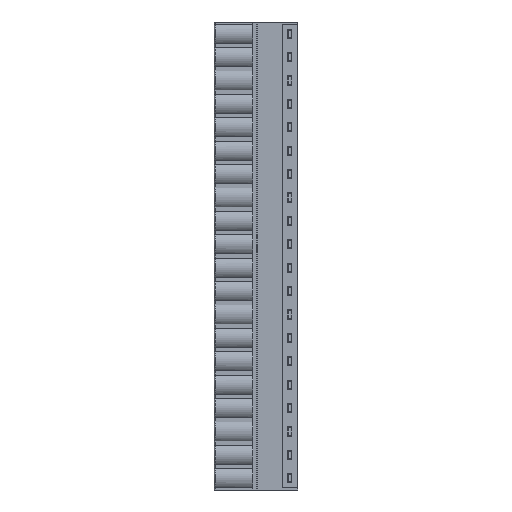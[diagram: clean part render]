
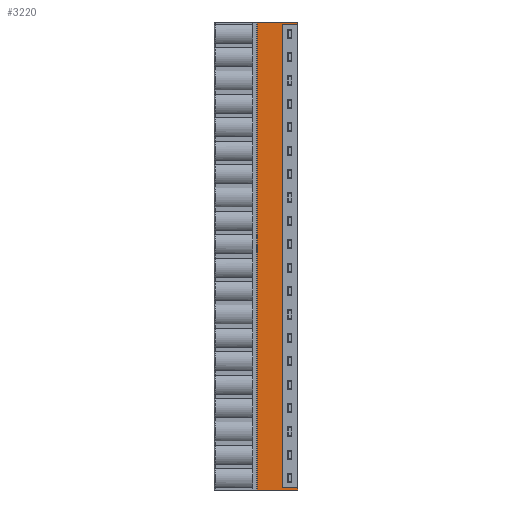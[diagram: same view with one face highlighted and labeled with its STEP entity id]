
A CAD part, left-side view. The second image highlights one B-rep face of the part: STEP entity #3220.
In plain terms, the highlighted planar face has unit normal (-1, 0, 0).
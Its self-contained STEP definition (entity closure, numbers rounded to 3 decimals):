
#1388 = CARTESIAN_POINT ( 'NONE',  ( -3.9, 3.033, 101.109 ) ) ;
#1598 = PLANE ( 'NONE',  #20073 ) ;
#1789 = CARTESIAN_POINT ( 'NONE',  ( -3.9, 2.9, 101.11 ) ) ;
#3220 = ADVANCED_FACE ( 'NONE', ( #69339 ), #1598, .T. ) ;
#3453 = CARTESIAN_POINT ( 'NONE',  ( -3.9, 1.933, 0.49 ) ) ;
#5058 = CARTESIAN_POINT ( 'NONE',  ( -3.9, 8.8, 101.6 ) ) ;
#5821 = CARTESIAN_POINT ( 'NONE',  ( -3.9, 0., 101.11 ) ) ;
#7580 = CARTESIAN_POINT ( 'NONE',  ( -3.9, 2.9, 0.49 ) ) ;
#7856 = ORIENTED_EDGE ( 'NONE', *, *, #55674, .T. ) ;
#8158 = CARTESIAN_POINT ( 'NONE',  ( -3.9, 8.9, 0. ) ) ;
#10050 = CARTESIAN_POINT ( 'NONE',  ( -3.9, 0., 101.6 ) ) ;
#13139 = VERTEX_POINT ( 'NONE', #23324 ) ;
#13706 = CARTESIAN_POINT ( 'NONE',  ( -3.9, 3.167, 101.108 ) ) ;
#13726 = CARTESIAN_POINT ( 'NONE',  ( -3.9, 2.9, 101.11 ) ) ;
#14827 = CARTESIAN_POINT ( 'NONE',  ( -3.9, 2.9, 0.49 ) ) ;
#14875 = LINE ( 'NONE', #75610, #24161 ) ;
#20057 = EDGE_CURVE ( 'NONE', #52221, #35600, #46239, .T. ) ;
#20073 = AXIS2_PLACEMENT_3D ( 'NONE', #8158, #33206, #38152 ) ;
#20598 = CARTESIAN_POINT ( 'NONE',  ( -3.9, 3.033, 0.491 ) ) ;
#21648 = B_SPLINE_CURVE_WITH_KNOTS ( 'NONE', 3,
 ( #31669, #24705, #68204, #5821 ),
 .UNSPECIFIED., .F., .F.,
 ( 4, 4 ),
 ( 0., 1. ),
 .UNSPECIFIED. ) ;
#23324 = CARTESIAN_POINT ( 'NONE',  ( -3.9, 8.8, 101.6 ) ) ;
#24161 = VECTOR ( 'NONE', #32564, 1000. ) ;
#24264 = B_SPLINE_CURVE_WITH_KNOTS ( 'NONE', 3,
 ( #53517, #3453, #71575, #28903 ),
 .UNSPECIFIED., .F., .F.,
 ( 4, 4 ),
 ( 0., 1. ),
 .UNSPECIFIED. ) ;
#24443 = B_SPLINE_CURVE_WITH_KNOTS ( 'NONE', 3,
 ( #57529, #27547, #20598, #14827 ),
 .UNSPECIFIED., .F., .F.,
 ( 4, 4 ),
 ( 0., 1. ),
 .UNSPECIFIED. ) ;
#24705 = CARTESIAN_POINT ( 'NONE',  ( -3.9, 1.933, 101.11 ) ) ;
#25339 = ORIENTED_EDGE ( 'NONE', *, *, #72840, .T. ) ;
#26111 = VERTEX_POINT ( 'NONE', #56453 ) ;
#26465 = ORIENTED_EDGE ( 'NONE', *, *, #38531, .F. ) ;
#27547 = CARTESIAN_POINT ( 'NONE',  ( -3.9, 3.167, 0.492 ) ) ;
#28903 = CARTESIAN_POINT ( 'NONE',  ( -3.9, 0., 0.49 ) ) ;
#29697 = LINE ( 'NONE', #5058, #38107 ) ;
#29887 = VECTOR ( 'NONE', #45440, 1000. ) ;
#31279 = EDGE_CURVE ( 'NONE', #62491, #26111, #24264, .T. ) ;
#31369 = CARTESIAN_POINT ( 'NONE',  ( -3.9, 8.8, 0. ) ) ;
#31669 = CARTESIAN_POINT ( 'NONE',  ( -3.9, 2.9, 101.11 ) ) ;
#32564 = DIRECTION ( 'NONE',  ( 0., 0., -1. ) ) ;
#32908 = DIRECTION ( 'NONE',  ( 0., -1., 0. ) ) ;
#33206 = DIRECTION ( 'NONE',  ( -1., 0., 0. ) ) ;
#35559 = VERTEX_POINT ( 'NONE', #31369 ) ;
#35600 = VERTEX_POINT ( 'NONE', #58007 ) ;
#36755 = EDGE_CURVE ( 'NONE', #52221, #61240, #48146, .T. ) ;
#36866 = LINE ( 'NONE', #42617, #68948 ) ;
#36897 = CARTESIAN_POINT ( 'NONE',  ( -3.9, 3.3, 101.108 ) ) ;
#38107 = VECTOR ( 'NONE', #66644, 1000. ) ;
#38152 = DIRECTION ( 'NONE',  ( 0., 0., 1. ) ) ;
#38389 = EDGE_CURVE ( 'NONE', #35600, #62491, #24443, .T. ) ;
#38531 = EDGE_CURVE ( 'NONE', #26111, #44320, #36866, .T. ) ;
#42617 = CARTESIAN_POINT ( 'NONE',  ( -3.9, 0., 0.49 ) ) ;
#44320 = VERTEX_POINT ( 'NONE', #52653 ) ;
#45353 = ORIENTED_EDGE ( 'NONE', *, *, #68590, .F. ) ;
#45440 = DIRECTION ( 'NONE',  ( 0., 0., -1. ) ) ;
#45691 = CARTESIAN_POINT ( 'NONE',  ( -3.9, 3.3, 101.108 ) ) ;
#46239 = LINE ( 'NONE', #63528, #29887 ) ;
#47806 = LINE ( 'NONE', #10050, #69627 ) ;
#48146 = B_SPLINE_CURVE_WITH_KNOTS ( 'NONE', 3,
 ( #45691, #13706, #1388, #1789 ),
 .UNSPECIFIED., .F., .F.,
 ( 4, 4 ),
 ( 0., 1. ),
 .UNSPECIFIED. ) ;
#50622 = ORIENTED_EDGE ( 'NONE', *, *, #75564, .T. ) ;
#52221 = VERTEX_POINT ( 'NONE', #36897 ) ;
#52653 = CARTESIAN_POINT ( 'NONE',  ( -3.9, 0., 0. ) ) ;
#52791 = ORIENTED_EDGE ( 'NONE', *, *, #62693, .F. ) ;
#53517 = CARTESIAN_POINT ( 'NONE',  ( -3.9, 2.9, 0.49 ) ) ;
#55674 = EDGE_CURVE ( 'NONE', #35559, #44320, #56700, .T. ) ;
#56453 = CARTESIAN_POINT ( 'NONE',  ( -3.9, 0., 0.49 ) ) ;
#56700 = LINE ( 'NONE', #63681, #72772 ) ;
#57529 = CARTESIAN_POINT ( 'NONE',  ( -3.9, 3.3, 0.492 ) ) ;
#58007 = CARTESIAN_POINT ( 'NONE',  ( -3.9, 3.3, 0.492 ) ) ;
#59137 = CARTESIAN_POINT ( 'NONE',  ( -3.9, 0., 101.11 ) ) ;
#61240 = VERTEX_POINT ( 'NONE', #13726 ) ;
#62491 = VERTEX_POINT ( 'NONE', #7580 ) ;
#62693 = EDGE_CURVE ( 'NONE', #13139, #68764, #29697, .T. ) ;
#63528 = CARTESIAN_POINT ( 'NONE',  ( -3.9, 3.3, 101.108 ) ) ;
#63681 = CARTESIAN_POINT ( 'NONE',  ( -3.9, 8.8, 0. ) ) ;
#63953 = ORIENTED_EDGE ( 'NONE', *, *, #38389, .F. ) ;
#64450 = ORIENTED_EDGE ( 'NONE', *, *, #20057, .F. ) ;
#66644 = DIRECTION ( 'NONE',  ( 0., -1., 0. ) ) ;
#66836 = VERTEX_POINT ( 'NONE', #59137 ) ;
#68204 = CARTESIAN_POINT ( 'NONE',  ( -3.9, 0.967, 101.11 ) ) ;
#68590 = EDGE_CURVE ( 'NONE', #68764, #66836, #47806, .T. ) ;
#68764 = VERTEX_POINT ( 'NONE', #80966 ) ;
#68948 = VECTOR ( 'NONE', #80716, 1000. ) ;
#69339 = FACE_OUTER_BOUND ( 'NONE', #70305, .T. ) ;
#69627 = VECTOR ( 'NONE', #73217, 1000. ) ;
#70305 = EDGE_LOOP ( 'NONE', ( #7856, #26465, #78102, #63953, #64450, #76529, #50622, #45353, #52791, #25339 ) ) ;
#71575 = CARTESIAN_POINT ( 'NONE',  ( -3.9, 0.967, 0.49 ) ) ;
#72772 = VECTOR ( 'NONE', #32908, 1000. ) ;
#72840 = EDGE_CURVE ( 'NONE', #13139, #35559, #14875, .T. ) ;
#73217 = DIRECTION ( 'NONE',  ( 0., 0., -1. ) ) ;
#75564 = EDGE_CURVE ( 'NONE', #61240, #66836, #21648, .T. ) ;
#75610 = CARTESIAN_POINT ( 'NONE',  ( -3.9, 8.8, 101.6 ) ) ;
#76529 = ORIENTED_EDGE ( 'NONE', *, *, #36755, .T. ) ;
#78102 = ORIENTED_EDGE ( 'NONE', *, *, #31279, .F. ) ;
#80716 = DIRECTION ( 'NONE',  ( 0., 0., -1. ) ) ;
#80966 = CARTESIAN_POINT ( 'NONE',  ( -3.9, 0., 101.6 ) ) ;
